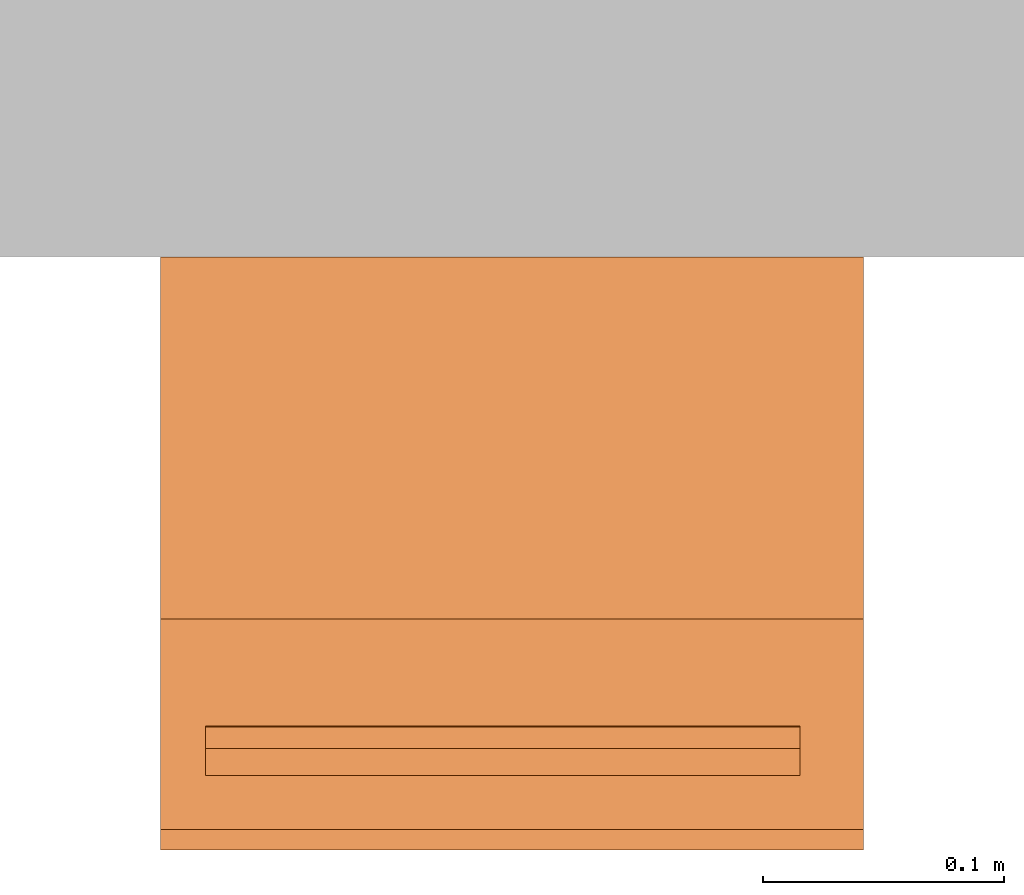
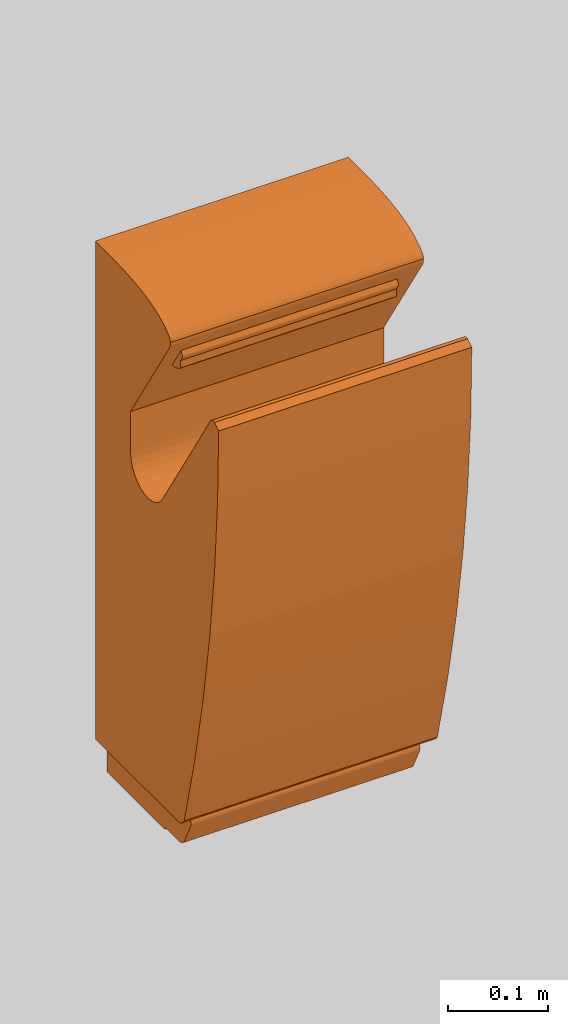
# One storey, part 2 of 2: 1 proxy.
"""IFC2X3 building model written with IfcOpenShell, lengths in millimetres."""

from ifc_helpers import new_model, entity, si_unit, converted_unit, frame, frame_2d, origin, place, context, project, spatial, polyline, circle_curve, parameter, trimmed, segment, composite_curve, outline, extrude, source, transform, mapped, element, save


model = new_model("IFC2X3")

# Units and contexts
model_context = context("Model", 3, precision=1e-06, world=origin())
plan_context = context("Plan", 3, precision=1e-06, world=origin())
ifc_project = project(units=[si_unit("LENGTHUNIT", "METRE", prefix="MILLI"), si_unit("AREAUNIT", "SQUARE_METRE", prefix="MILLI"), si_unit("VOLUMEUNIT", "CUBIC_METRE", prefix="MILLI"), converted_unit("PLANEANGLEUNIT", "DEGREE", entity("IfcRatioMeasure", 0.01745329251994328), si_unit("PLANEANGLEUNIT", "RADIAN"), dimensions=[0, 0, 0, 0, 0, 0, 0]), si_unit("TIMEUNIT", "SECOND")], contexts=[model_context, plan_context])

# Site, building, storey
site_placement = place(None, origin())
site = spatial("IfcSite", under=ifc_project, at=site_placement, Name="Default", CompositionType="ELEMENT")
building_placement = place(site_placement, origin())
building = spatial("IfcBuilding", under=site, at=building_placement, CompositionType="ELEMENT")
storey_placement = place(building_placement, origin())
storey = spatial("IfcBuildingStorey", under=building, at=storey_placement, Name="Level 1", CompositionType="ELEMENT", Elevation=0.0)

# Proxy
shared_shape = source(origin(), model_context, "Body", "SweptSolid", [
    extrude(outline(composite_curve([segment(polyline([(-26.98543950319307, -107.5460886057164), (17.42164281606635, -107.5460886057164)]), True, "CONTINUOUS"), segment(polyline([(17.42164281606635, -107.5460886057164), (17.42164281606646, 6.768418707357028)]), True, "CONTINUOUS"), segment(trimmed(circle_curve(frame_2d((14.62664626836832, 6.768418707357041), x_axis=(1.0, 0.0)), 2.794996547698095), [parameter(359.9999999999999)], [parameter(90.00000000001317)], True, "PARAMETER"), True, "CONTINUOUS"), segment(polyline([(14.62664626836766, 9.563415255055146), (14.62664626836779, 36.24856013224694)]), True, "CONTINUOUS"), segment(trimmed(circle_curve(frame_2d((2.854078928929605, 36.24856013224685), x_axis=(1.0, 0.0)), 11.77256733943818), [parameter(5.088887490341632e-14)], [parameter(67.00708498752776)], True, "PARAMETER"), True, "CONTINUOUS"), segment(polyline([(7.452647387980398, 47.08583423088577), (-17.57834655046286, 59.32932745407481)]), True, "CONTINUOUS"), segment(trimmed(circle_curve(frame_2d((-20.66722361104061, 53.01432718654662), x_axis=(1.0, 0.0)), 7.029963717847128), [parameter(63.93520242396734)], [parameter(153.9949128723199)], True, "PARAMETER"), True, "CONTINUOUS"), segment(polyline([(-26.98543950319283, 56.09662143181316), (-26.98543950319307, -107.5460886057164)]), True, "CONTINUOUS")], self_intersect=False)), frame((0.0, 207.5460886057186, 792.5145129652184), z_axis=(1.0, 0.0, 0.0), x_axis=(0.0, 0.0, -1.0)), (0.0, 0.0, 1.0), 263.5252171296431),
    extrude(outline(composite_curve([segment(polyline([(7.750979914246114, -11.98136642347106), (12.98927914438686, -11.9813664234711)]), True, "CONTINUOUS"), segment(polyline([(12.98927914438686, -11.9813664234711), (-3.61871941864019, 16.7845308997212)]), True, "CONTINUOUS"), segment(polyline([(-3.618719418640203, 16.78453089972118), (-6.159744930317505, 12.00555697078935)]), True, "CONTINUOUS"), segment(trimmed(circle_curve(frame_2d((-3.139824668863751, 10.39983688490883), x_axis=(-0.8829475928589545, 0.4694715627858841)), 3.420271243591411), [parameter(359.9999999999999)], [parameter(38.41798567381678)], True, "PARAMETER"), True, "CONTINUOUS"), segment(polyline([(-6.503711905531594, 9.781356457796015), (-6.510814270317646, 1.59529541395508)]), True, "CONTINUOUS"), segment(trimmed(circle_curve(frame_2d((-3.518486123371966, 1.592699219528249), x_axis=(-0.8829475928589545, 0.4694715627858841)), 2.992329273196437), [parameter(27.95028922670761)], [parameter(88.04971077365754)], True, "PARAMETER"), True, "CONTINUOUS"), segment(polyline([(-5.012401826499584, -1.000031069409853), (2.087588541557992, -5.099212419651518)]), True, "CONTINUOUS"), segment(polyline([(2.087588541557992, -5.099212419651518), (4.977544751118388, -10.10476340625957)]), True, "CONTINUOUS"), segment(trimmed(circle_curve(frame_2d((8.295215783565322, -8.189305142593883), x_axis=(-0.8829475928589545, 0.4694715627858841)), 3.830916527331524), [parameter(57.99999999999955)], [parameter(109.8326931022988)], True, "PARAMETER"), True, "CONTINUOUS")], self_intersect=False)), frame((9.576862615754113, 233.8490639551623, 1352.34982584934), z_axis=(1.0, 0.0, 0.0), x_axis=(0.0, -0.469471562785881, 0.8829475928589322)), (0.0, 0.0, 1.0), 248.584636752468),
    extrude(outline(composite_curve([segment(trimmed(circle_curve(frame_2d((-9.044386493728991, 8.923122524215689), x_axis=(1.0, 0.0)), 3.414772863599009), [parameter(184.2407617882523)], [parameter(237.9999999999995)], True, "PARAMETER"), True, "CONTINUOUS"), segment(polyline([(-10.85394041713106, 6.027230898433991), (-6.068374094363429, 3.036877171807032)]), True, "CONTINUOUS"), segment(polyline([(-6.068374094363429, 3.036877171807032), (-2.083968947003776, -4.151179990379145)]), True, "CONTINUOUS"), segment(trimmed(circle_curve(frame_2d((0.7805935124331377, -2.62806511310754), x_axis=(1.0, 0.0)), 3.244317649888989), [parameter(208.0000000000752)], [parameter(268.0000000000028)], True, "PARAMETER"), True, "CONTINUOUS"), segment(polyline([(0.6673684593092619, -5.870406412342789), (7.981934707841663, -5.742730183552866)]), True, "CONTINUOUS"), segment(polyline([(7.981934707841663, -5.742730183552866), (8.891363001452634, -6.311004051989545)]), True, "CONTINUOUS"), segment(trimmed(circle_curve(frame_2d((9.439068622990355, -3.938630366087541), x_axis=(1.0, 0.0)), 2.434776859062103), [parameter(257.0000000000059)], [parameter(294.9999999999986)], True, "PARAMETER"), True, "CONTINUOUS"), segment(polyline([(10.46804978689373, -6.145287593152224), (15.89718774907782, -3.613638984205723)]), True, "CONTINUOUS"), segment(polyline([(15.89718774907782, -3.613638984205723), (-12.44981012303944, 14.09953120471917)]), True, "CONTINUOUS"), segment(polyline([(-12.44981012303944, 14.09953120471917), (-12.44981012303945, 8.67060794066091)]), True, "CONTINUOUS")], self_intersect=False)), frame((11.87455923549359, 300.5546823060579, 1309.301026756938), z_axis=(1.0, 0.0, 0.0), x_axis=(0.0, 0.0, -1.0)), (0.0, 0.0, 1.0), 246.2869401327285),
    extrude(outline(composite_curve([segment(polyline([(-112.7215101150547, -519.9262651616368), (50.9211999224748, -519.9262651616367)]), True, "CONTINUOUS"), segment(trimmed(circle_curve(frame_2d((50.92119992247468, -504.6659138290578), x_axis=(0.0, -1.0)), 15.26035133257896), [parameter(1.52666624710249e-13)], [parameter(61.48232441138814)], True, "PARAMETER"), True, "CONTINUOUS"), segment(trimmed(circle_curve(frame_2d((-1886.700037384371, 10.07288283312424), x_axis=(0.0, -1.0)), 2019.660336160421), [parameter(75.02061704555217)], [parameter(89.81500670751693)], True, "PARAMETER"), True, "CONTINUOUS"), segment(polyline([(132.9497715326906, 3.551931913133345), (124.4692905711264, 8.851124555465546)]), True, "CONTINUOUS"), segment(trimmed(circle_curve(frame_2d((122.4896383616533, 2.2901060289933), x_axis=(0.0, -1.0)), 6.853173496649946), [parameter(163.2098930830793)], [parameter(238.0000000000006)], True, "PARAMETER"), True, "CONTINUOUS"), segment(polyline([(116.6778176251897, 5.921734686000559), (20.30909679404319, -148.3004567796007)]), True, "CONTINUOUS"), segment(trimmed(circle_curve(frame_2d((-8.143789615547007, -129.0099980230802), x_axis=(0.0, -1.0)), 34.37569699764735), [parameter(270.0000000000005)], [parameter(55.86355461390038)], True, "PARAMETER"), False, "CONTINUOUS"), segment(polyline([(-42.51948661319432, -129.0099980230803), (-42.51948661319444, -79.00999802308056)]), True, "CONTINUOUS"), segment(polyline([(-42.51948661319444, -79.00999802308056), (34.31880670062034, 43.95697591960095)]), True, "CONTINUOUS"), segment(polyline([(34.31880670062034, 43.95697591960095), (36.69937017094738, 49.03630171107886)]), True, "CONTINUOUS"), segment(polyline([(36.69937017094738, 49.03630171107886), (37.09773338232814, 53.15072871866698)]), True, "CONTINUOUS"), segment(polyline([(37.09773338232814, 53.15072871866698), (35.95400728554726, 56.50662518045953)]), True, "CONTINUOUS"), segment(polyline([(35.95400728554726, 56.50662518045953), (33.70830283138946, 59.31035933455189)]), True, "CONTINUOUS"), segment(polyline([(33.70830283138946, 59.31035933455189), (30.80073097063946, 61.76829941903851)]), True, "CONTINUOUS"), segment(polyline([(30.80073097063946, 61.76829941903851), (27.61332775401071, 64.06135379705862)]), True, "CONTINUOUS"), segment(polyline([(27.61332775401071, 64.06135379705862), (24.22174639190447, 66.23611344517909)]), True, "CONTINUOUS"), segment(polyline([(24.22174639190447, 66.23611344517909), (20.60097041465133, 68.29503603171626)]), True, "CONTINUOUS"), segment(polyline([(20.60097041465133, 68.29503603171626), (16.72592332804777, 70.24055291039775)]), True, "CONTINUOUS"), segment(polyline([(16.72592332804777, 70.24055291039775), (12.57152863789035, 72.07509543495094)]), True, "CONTINUOUS"), segment(polyline([(12.57152863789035, 72.07509543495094), (8.112709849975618, 73.80109495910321)]), True, "CONTINUOUS"), segment(polyline([(8.112709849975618, 73.80109495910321), (3.324390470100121, 75.42098283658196)]), True, "CONTINUOUS"), segment(polyline([(3.324390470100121, 75.42098283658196), (-1.818505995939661, 76.93719042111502)]), True, "CONTINUOUS"), segment(polyline([(-1.818505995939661, 76.93719042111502), (-7.345821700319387, 78.3513121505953)]), True, "CONTINUOUS"), segment(polyline([(-7.345821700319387, 78.3513121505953), (-13.31846923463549, 79.65948606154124)]), True, "CONTINUOUS"), segment(polyline([(-13.31846923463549, 79.65948606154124), (-19.80981395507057, 80.85566331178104)]), True, "CONTINUOUS"), segment(polyline([(-19.80981395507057, 80.85566331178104), (-26.8932544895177, 81.93378921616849)]), True, "CONTINUOUS"), segment(polyline([(-26.8932544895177, 81.93378921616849), (-34.64218946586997, 82.88780908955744)]), True, "CONTINUOUS"), segment(polyline([(-34.64218946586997, 82.88780908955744), (-43.13001751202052, 83.711668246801)]), True, "CONTINUOUS"), segment(polyline([(-43.13001751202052, 83.711668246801), (-52.4301372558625, 84.39931200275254)]), True, "CONTINUOUS"), segment(polyline([(-52.4301372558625, 84.39931200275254), (-62.61594732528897, 84.94468567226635)]), True, "CONTINUOUS"), segment(polyline([(-62.61594732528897, 84.94468567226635), (-73.76084634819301, 85.34173457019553)]), True, "CONTINUOUS"), segment(polyline([(-73.76084634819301, 85.34173457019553), (-85.93823295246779, 85.5844040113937)]), True, "CONTINUOUS"), segment(polyline([(-85.93823295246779, 85.5844040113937), (-99.2215057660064, 85.66663931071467)]), True, "CONTINUOUS"), segment(polyline([(-99.22150576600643, 85.66663931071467), (-112.7215101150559, 85.66663931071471)]), True, "CONTINUOUS"), segment(polyline([(-112.7215101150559, 85.66663931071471), (-112.7215101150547, -519.9262651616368)]), True, "CONTINUOUS")], self_intersect=False)), frame((-14.31673708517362, 212.7215101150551, 1339.426217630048), z_axis=(1.0, 0.0, 0.0), x_axis=(0.0, 1.0, 0.0)), (0.0, 0.0, 1.0), 291.1912963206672),
])
proxy_placement = place(storey_placement, frame((-7002.061600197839, -8442.997041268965, -228.1710999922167), z_axis=(0.0, 0.0, 1.0), x_axis=(-1.0, 0.0, 0.0)))
element("IfcBuildingElementProxy", 1, at=proxy_placement, inside=storey, Name="510621-2-FR:Type 1:Type 1", ObjectType="Type 1", CompositionType="ELEMENT", context=model_context, shape_type="MappedRepresentation", body=[
    mapped(shared_shape, transform((0.0, 0.0, 0.0), scale=1.0)),
])

save(model, "model.ifc")
